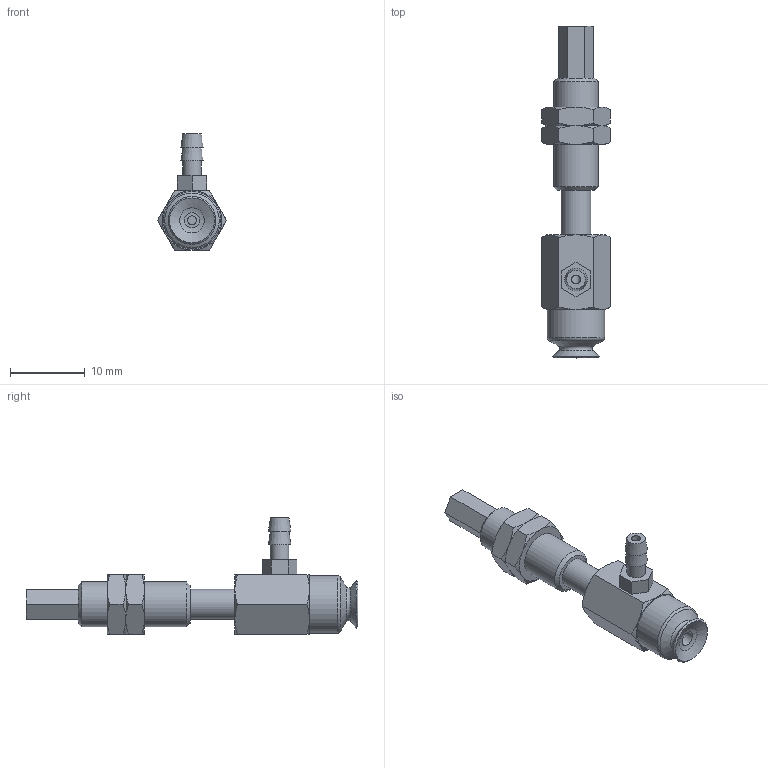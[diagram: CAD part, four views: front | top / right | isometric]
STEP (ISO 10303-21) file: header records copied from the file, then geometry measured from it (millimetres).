
FILE_DESCRIPTION(('STEP AP203'),'1');
FILE_NAME('-T.stp','2025-04-09T05:41:38',(' '),(' '),'Spatial InterOp 3D',' ',' ');
FILE_SCHEMA(('CONFIG_CONTROL_DESIGN'));
Length unit declared in the file: millimetre
Products named in the file (7): BNABPFYS-6A-6-※-T; CONNECTOR-6A-6; Nut-6A-6-s; NAPFTS-6A-6-FBODY; NAPFTS-6A-6-MBODY; BPFG-6A-※; T (2)
Assembly tree (7 placements, depth 2):
  BNABPFYS-6A-6-※-T
    CONNECTOR-6A-6
    Nut-6A-6-s  x2
    NAPFTS-6A-6-FBODY
    NAPFTS-6A-6-MBODY
    BPFG-6A-※
    T (2)
Bounding box: 9.24 x 44.5 x 15.6 mm (x, y, z)
Volume: 1544.1 mm3; surface area: 2392.4 mm2
Topology: 7 solids, 7 shells, 149 faces, 314 edges, 189 vertices
Faces by surface type: plane 68, cone 55, cylinder 18, torus 7, bspline 1
Full cylindrical faces by diameter (mm): 1.2 x2, 2 x1, 2.459 x2, 2.5 x1, 3 x2, 4 x4, 5.188 x2, 6 x3, 7.7 x1
Entity records: 3675 total; most frequent: CARTESIAN_POINT 851, DIRECTION 520, ORIENTED_EDGE 436, AXIS2_PLACEMENT_3D 223, EDGE_CURVE 218, EDGE_LOOP 188, VERTEX_POINT 154, FACE_OUTER_BOUND 151
